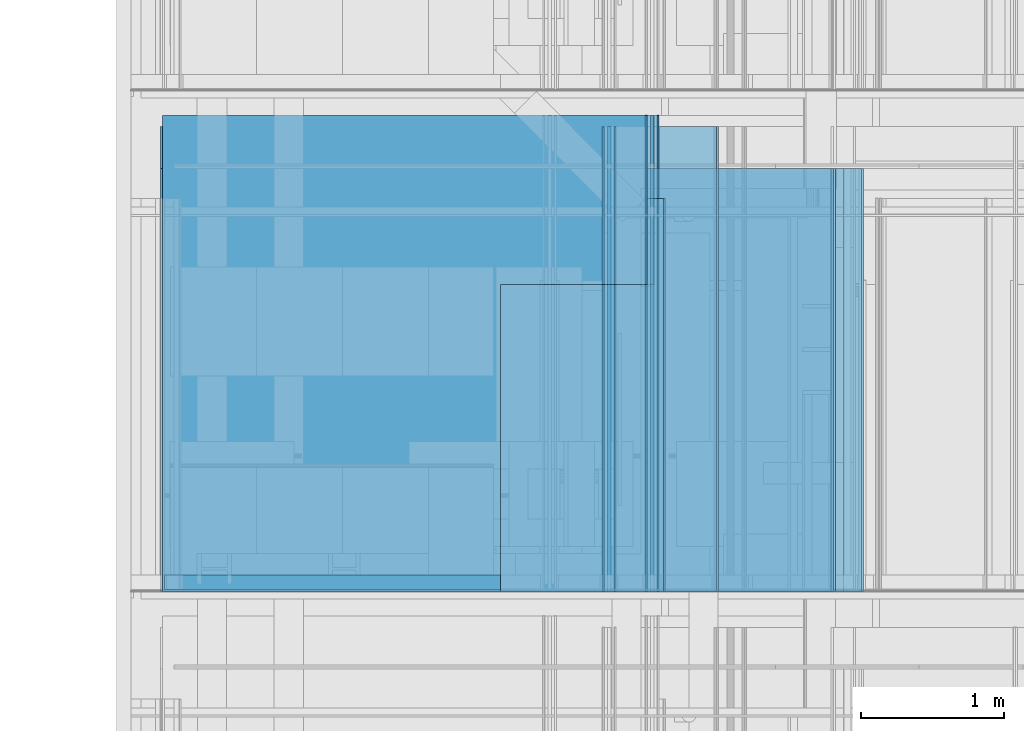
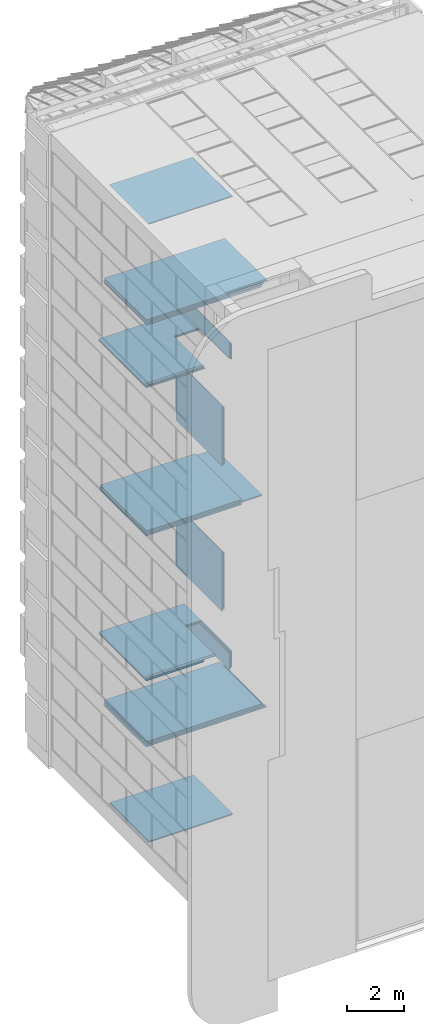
# One storey, part 61 of 583: 41 building element parts, 6 openings, 11 elements without a shape of their own.
"""IFC2X3 building model written with IfcOpenShell, lengths in metres."""

from ifc_helpers import new_model, entity, si_unit, converted_unit, derived_unit, money_unit, direction, frame, frame_2d, origin_with_axes, place, context, subcontext, project, spatial, polyline, rectangle, outline, extrude, material, type_object, element, aggregate, save


model = new_model("IFC2X3")

# Units and contexts
model_context = context("Model", 3, precision=1e-05, world=origin_with_axes(), true_north=direction((0.0, 1.0)))
body_context = subcontext(model_context, "Body", "Model", "MODEL_VIEW", scale=1.0)
ifc_project = project(units=[si_unit("LENGTHUNIT", "METRE"), si_unit("AREAUNIT", "SQUARE_METRE"), si_unit("VOLUMEUNIT", "CUBIC_METRE"), si_unit("ABSORBEDDOSEUNIT", "GRAY"), si_unit("AMOUNTOFSUBSTANCEUNIT", "MOLE"), si_unit("DOSEEQUIVALENTUNIT", "SIEVERT"), si_unit("ELECTRICCAPACITANCEUNIT", "FARAD"), si_unit("ELECTRICCHARGEUNIT", "COULOMB"), si_unit("ELECTRICCONDUCTANCEUNIT", "SIEMENS"), si_unit("ELECTRICCURRENTUNIT", "AMPERE"), si_unit("ELECTRICRESISTANCEUNIT", "OHM"), si_unit("ELECTRICVOLTAGEUNIT", "VOLT"), si_unit("ENERGYUNIT", "JOULE"), si_unit("FORCEUNIT", "NEWTON"), si_unit("FREQUENCYUNIT", "HERTZ"), si_unit("ILLUMINANCEUNIT", "LUX"), si_unit("INDUCTANCEUNIT", "HENRY"), si_unit("LUMINOUSFLUXUNIT", "LUMEN"), si_unit("LUMINOUSINTENSITYUNIT", "CANDELA"), si_unit("MAGNETICFLUXDENSITYUNIT", "TESLA"), si_unit("MAGNETICFLUXUNIT", "WEBER"), si_unit("MASSUNIT", "GRAM"), converted_unit("PLANEANGLEUNIT", "degree", entity("IfcReal", 0.0174532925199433), si_unit("PLANEANGLEUNIT", "RADIAN"), dimensions=[0, 0, 0, 0, 0, 0, 0]), si_unit("POWERUNIT", "WATT"), si_unit("PRESSUREUNIT", "PASCAL"), si_unit("RADIOACTIVITYUNIT", "BECQUEREL"), si_unit("SOLIDANGLEUNIT", "STERADIAN"), si_unit("THERMODYNAMICTEMPERATUREUNIT", "KELVIN"), si_unit("TIMEUNIT", "SECOND"), derived_unit("ACCELERATIONUNIT", [(si_unit("LENGTHUNIT", "METRE"), 1), (si_unit("TIMEUNIT", "SECOND"), -2)]), derived_unit("ANGULARVELOCITYUNIT", [(converted_unit("PLANEANGLEUNIT", "degree", entity("IfcReal", 0.0174532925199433), si_unit("PLANEANGLEUNIT", "RADIAN"), dimensions=[0, 0, 0, 0, 0, 0, 0]), 1), (si_unit("TIMEUNIT", "SECOND"), -1)]), derived_unit("CURVATUREUNIT", [(converted_unit("PLANEANGLEUNIT", "degree", entity("IfcReal", 0.0174532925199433), si_unit("PLANEANGLEUNIT", "RADIAN"), dimensions=[0, 0, 0, 0, 0, 0, 0]), 1), (si_unit("LENGTHUNIT", "METRE"), -1)]), derived_unit("DYNAMICVISCOSITYUNIT", [(si_unit("PRESSUREUNIT", "PASCAL"), 1), (si_unit("TIMEUNIT", "SECOND"), 1)]), derived_unit("HEATFLUXDENSITYUNIT", [(si_unit("POWERUNIT", "WATT"), 1), (si_unit("LENGTHUNIT", "METRE"), -2)]), derived_unit("HEATINGVALUEUNIT", [(si_unit("ENERGYUNIT", "JOULE"), 1), (si_unit("MASSUNIT", "GRAM"), -1)]), derived_unit("INTEGERCOUNTRATEUNIT", [(si_unit("TIMEUNIT", "SECOND"), -1)]), derived_unit("IONCONCENTRATIONUNIT", [(si_unit("MASSUNIT", "GRAM"), 1), (si_unit("VOLUMEUNIT", "CUBIC_METRE"), -1)]), derived_unit("ISOTHERMALMOISTURECAPACITYUNIT", [(si_unit("VOLUMEUNIT", "CUBIC_METRE"), 1), (si_unit("MASSUNIT", "GRAM"), -1)]), derived_unit("KINEMATICVISCOSITYUNIT", [(si_unit("AREAUNIT", "SQUARE_METRE"), 1), (si_unit("TIMEUNIT", "SECOND"), -1)]), derived_unit("LINEARFORCEUNIT", [(si_unit("FORCEUNIT", "NEWTON"), 1), (si_unit("LENGTHUNIT", "METRE"), -1)]), derived_unit("LINEARMOMENTUNIT", [(si_unit("FORCEUNIT", "NEWTON"), 1), (si_unit("LENGTHUNIT", "METRE"), -1)]), derived_unit("LINEARSTIFFNESSUNIT", [(si_unit("FORCEUNIT", "NEWTON"), 1), (si_unit("LENGTHUNIT", "METRE"), -1)]), derived_unit("LINEARVELOCITYUNIT", [(si_unit("LENGTHUNIT", "METRE"), 1), (si_unit("TIMEUNIT", "SECOND"), -1)]), derived_unit("LUMINOUSINTENSITYDISTRIBUTIONUNIT", [(si_unit("LUMINOUSINTENSITYUNIT", "CANDELA"), 1), (si_unit("LUMINOUSFLUXUNIT", "LUMEN"), -1)]), derived_unit("MASSDENSITYUNIT", [(si_unit("MASSUNIT", "GRAM"), 1), (si_unit("VOLUMEUNIT", "CUBIC_METRE"), -1)]), derived_unit("MASSFLOWRATEUNIT", [(si_unit("MASSUNIT", "GRAM"), 1), (si_unit("TIMEUNIT", "SECOND"), -1)]), derived_unit("MASSPERLENGTHUNIT", [(si_unit("MASSUNIT", "GRAM"), 1), (si_unit("LENGTHUNIT", "METRE"), -1)]), derived_unit("MODULUSOFELASTICITYUNIT", [(si_unit("FORCEUNIT", "NEWTON"), 1), (si_unit("AREAUNIT", "SQUARE_METRE"), -1)]), derived_unit("MODULUSOFLINEARSUBGRADEREACTIONUNIT", [(si_unit("FORCEUNIT", "NEWTON"), 1), (si_unit("LENGTHUNIT", "METRE"), -2)]), derived_unit("MODULUSOFROTATIONALSUBGRADEREACTIONUNIT", [(si_unit("FORCEUNIT", "NEWTON"), 1), (si_unit("LENGTHUNIT", "METRE"), 1)]), derived_unit("MODULUSOFSUBGRADEREACTIONUNIT", [(si_unit("FORCEUNIT", "NEWTON"), 1), (si_unit("VOLUMEUNIT", "CUBIC_METRE"), -1)]), derived_unit("MOISTUREDIFFUSIVITYUNIT", [(si_unit("VOLUMEUNIT", "CUBIC_METRE"), 1), (si_unit("TIMEUNIT", "SECOND"), -1)]), derived_unit("MOLECULARWEIGHTUNIT", [(si_unit("MASSUNIT", "GRAM"), 1), (si_unit("AMOUNTOFSUBSTANCEUNIT", "MOLE"), -1)]), derived_unit("PLANARFORCEUNIT", [(si_unit("FORCEUNIT", "NEWTON"), 1), (si_unit("LENGTHUNIT", "METRE"), -2)]), derived_unit("ROTATIONALFREQUENCYUNIT", [(si_unit("TIMEUNIT", "SECOND"), -1)]), derived_unit("ROTATIONALMASSUNIT", [(si_unit("MASSUNIT", "GRAM"), 1), (si_unit("LENGTHUNIT", "METRE"), 2)]), derived_unit("ROTATIONALSTIFFNESSUNIT", [(si_unit("FORCEUNIT", "NEWTON"), 1), (si_unit("LENGTHUNIT", "METRE"), 1), (converted_unit("PLANEANGLEUNIT", "degree", entity("IfcReal", 0.0174532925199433), si_unit("PLANEANGLEUNIT", "RADIAN"), dimensions=[0, 0, 0, 0, 0, 0, 0]), -1)]), derived_unit("SECTIONAREAINTEGRALUNIT", [(si_unit("LENGTHUNIT", "METRE"), 5)]), derived_unit("SECTIONMODULUSUNIT", [(si_unit("LENGTHUNIT", "METRE"), 3)]), derived_unit("SHEARMODULUSUNIT", [(si_unit("FORCEUNIT", "NEWTON"), 1), (si_unit("AREAUNIT", "SQUARE_METRE"), -1)]), derived_unit("SOUNDPOWERUNIT", [(si_unit("ENERGYUNIT", "JOULE"), 1), (si_unit("TIMEUNIT", "SECOND"), -1)]), derived_unit("SPECIFICHEATCAPACITYUNIT", [(si_unit("FORCEUNIT", "NEWTON"), 1), (si_unit("MASSUNIT", "GRAM"), -1), (si_unit("THERMODYNAMICTEMPERATUREUNIT", "KELVIN"), -1)]), derived_unit("TEMPERATUREGRADIENTUNIT", [(si_unit("THERMODYNAMICTEMPERATUREUNIT", "KELVIN"), 1), (si_unit("LENGTHUNIT", "METRE"), -1)]), derived_unit("THERMALADMITTANCEUNIT", [(si_unit("POWERUNIT", "WATT"), 1), (si_unit("AREAUNIT", "SQUARE_METRE"), -1), (si_unit("THERMODYNAMICTEMPERATUREUNIT", "KELVIN"), -1)]), derived_unit("THERMALCONDUCTANCEUNIT", [(si_unit("POWERUNIT", "WATT"), 1), (si_unit("LENGTHUNIT", "METRE"), -1), (si_unit("THERMODYNAMICTEMPERATUREUNIT", "KELVIN"), -1)]), derived_unit("THERMALEXPANSIONCOEFFICIENTUNIT", [(si_unit("THERMODYNAMICTEMPERATUREUNIT", "KELVIN"), -1)]), derived_unit("THERMALRESISTANCEUNIT", [(si_unit("AREAUNIT", "SQUARE_METRE"), 1), (si_unit("POWERUNIT", "WATT"), -1)]), derived_unit("THERMALTRANSMITTANCEUNIT", [(si_unit("POWERUNIT", "WATT"), 1), (si_unit("AREAUNIT", "SQUARE_METRE"), -1), (si_unit("THERMODYNAMICTEMPERATUREUNIT", "KELVIN"), -1)]), derived_unit("TORQUEUNIT", [(si_unit("FORCEUNIT", "NEWTON"), 1), (si_unit("LENGTHUNIT", "METRE"), 1)]), derived_unit("VAPORPERMEABILITYUNIT", [(si_unit("MASSUNIT", "GRAM"), 1), (si_unit("TIMEUNIT", "SECOND"), -1)]), derived_unit("VOLUMETRICFLOWRATEUNIT", [(si_unit("VOLUMEUNIT", "CUBIC_METRE"), 1), (si_unit("TIMEUNIT", "SECOND"), -1)]), derived_unit("WARPINGCONSTANTUNIT", [(si_unit("LENGTHUNIT", "METRE"), 6)]), derived_unit("WARPINGMOMENTUNIT", [(si_unit("FORCEUNIT", "NEWTON"), 1), (si_unit("LENGTHUNIT", "METRE"), 2)]), money_unit("GBP")], contexts=[model_context])

# Site, building, storey
site_placement = place(None, origin_with_axes())
site = spatial("IfcSite", under=ifc_project, at=site_placement, Name="Site", CompositionType="ELEMENT")
building_placement = place(site_placement, origin_with_axes())
building = spatial("IfcBuilding", under=site, at=building_placement, Name="Building01", CompositionType="ELEMENT")
storey_placement = place(building_placement, frame((0.0, 0.0, 20.78), z_axis=(0.0, 0.0, 1.0), x_axis=(1.0, 0.0, 0.0)))
storey = spatial("IfcBuildingStorey", under=building, at=storey_placement, Name="RL", CompositionType="ELEMENT", Elevation=20.78)

# Wall, building element parts
wall_type_1 = type_object("IfcWallType", Name="SHE_A-Walls_Type01c_Partywall_225mm_twin_tall", PredefinedType="NOTDEFINED")
wall_1_placement = place(storey_placement, frame((5.068, 8.64, 1.708), z_axis=(0.0, 1.0, 0.0), x_axis=(-1.0, 0.0, 0.0)))
wall_1 = element("IfcWall", 1, at=wall_1_placement, inside=storey, type_object=wall_type_1, Name="1C", ObjectType="SHE_A-Walls_Type01c_Partywall_225mm_twin_tall")
ifc_material_1 = material(Name="A_BSUK_Insulation")
placement_1 = place(wall_1_placement, origin_with_axes())
building_element_part_1 = element("IfcBuildingElementPart", 2, at=placement_1, material=ifc_material_1, Name="1", context=body_context, shape_type="SweptSolid", body=[
    extrude(rectangle(XDim=4.762, YDim=0.05, at=frame_2d((2.381, 0.025), x_axis=(-1.0, 0.0))), origin_with_axes(), (0.0, 0.0, 1.0), 2.95),
])
ifc_material_2 = material(Name="A_BSUK_WallInternal_Finishes_Plasterboard")
building_element_part_2 = element("IfcBuildingElementPart", 3, at=placement_1, material=ifc_material_2, Name="3", context=body_context, shape_type="SweptSolid", body=[
    extrude(outline(polyline([(-0.137, 0.137), (-0.122, 0.122), (4.735, 0.122), (4.735, 0.137), (-0.137, 0.137)])), origin_with_axes(), (0.0, 0.0, 1.0), 2.95),
])
building_element_part_3 = element("IfcBuildingElementPart", 4, at=placement_1, material=ifc_material_2, Name="4", context=body_context, shape_type="SweptSolid", body=[
    extrude(outline(polyline([(4.75, 0.122), (-0.122, 0.122), (-0.107, 0.107), (4.75, 0.107), (4.75, 0.122)])), origin_with_axes(), (0.0, 0.0, 1.0), 2.95),
])
building_element_part_4 = element("IfcBuildingElementPart", 5, at=placement_1, material=ifc_material_2, Name="5", context=body_context, shape_type="SweptSolid", body=[
    extrude(outline(polyline([(4.75, -0.058), (0.058, -0.058), (0.073, -0.073), (4.75, -0.073), (4.75, -0.058)])), origin_with_axes(), (0.0, 0.0, 1.0), 2.95),
])
building_element_part_5 = element("IfcBuildingElementPart", 6, at=placement_1, material=ifc_material_2, Name="6", context=body_context, shape_type="SweptSolid", body=[
    extrude(outline(polyline([(4.735, -0.073), (0.073, -0.073), (0.088, -0.088), (4.735, -0.088), (4.735, -0.073)])), origin_with_axes(), (0.0, 0.0, 1.0), 2.95),
])
aggregate(wall_1, [building_element_part_1, building_element_part_2, building_element_part_3, building_element_part_4, building_element_part_5])

wall_type_2 = type_object("IfcWallType", Name="SHE_A-Walls_Type06d_ExternalWallInsulation_48mm", PredefinedType="NOTDEFINED")
wall_2_placement = place(storey_placement, frame((0.4, 8.64, 5.93), z_axis=(0.0, 1.0, 0.0), x_axis=(1.0, 0.0, 0.0)))
wall_2 = element("IfcWall", 7, at=wall_2_placement, inside=storey, type_object=wall_type_2, Name="6D", ObjectType="SHE_A-Walls_Type06d_ExternalWallInsulation_48mm")
placement_2 = place(wall_2_placement, origin_with_axes())
building_element_part_6 = element("IfcBuildingElementPart", 8, at=placement_2, material=ifc_material_1, Name="1", context=body_context, shape_type="SweptSolid", body=[
    extrude(outline(polyline([(3.41018, 0.036), (0.036, 0.036), (0.0, 0.0), (3.37418, 0.0), (3.41018, 0.036)])), origin_with_axes(), (0.0, 0.0, 1.0), 2.74),
])
building_element_part_7 = element("IfcBuildingElementPart", 9, at=placement_2, material=ifc_material_2, Name="3", context=body_context, shape_type="SweptSolid", body=[
    extrude(outline(polyline([(3.42218, 0.048), (0.048, 0.048), (0.035, 0.035), (3.40918, 0.035), (3.42218, 0.048)])), origin_with_axes(), (0.0, 0.0, 1.0), 2.74),
])
aggregate(wall_2, [building_element_part_6, building_element_part_7])

wall_3_placement = place(storey_placement, frame((4.995, 8.64, -7.2795), z_axis=(0.0, 1.0, 0.0), x_axis=(-1.0, 0.0, 0.0)))
wall_3 = element("IfcWall", 10, at=wall_3_placement, inside=storey, type_object=wall_type_1, Name="1C", ObjectType="SHE_A-Walls_Type01c_Partywall_225mm_twin_tall")
placement_3 = place(wall_3_placement, origin_with_axes())
building_element_part_8 = element("IfcBuildingElementPart", 11, at=placement_3, material=ifc_material_1, Name="1", context=body_context, shape_type="SweptSolid", body=[
    extrude(rectangle(XDim=4.689, YDim=0.05, at=frame_2d((2.3445, 0.0), x_axis=(-1.0, 0.0))), origin_with_axes(), (0.0, 0.0, 1.0), 3.24),
])
building_element_part_9 = element("IfcBuildingElementPart", 12, at=placement_3, material=ifc_material_2, Name="8", context=body_context, shape_type="SweptSolid", body=[
    extrude(rectangle(XDim=3.846428, YDim=0.015, at=frame_2d((2.738786, -0.1055), x_axis=(-1.0, 0.0))), origin_with_axes(), (0.0, 0.0, 1.0), 3.24),
])
building_element_part_10 = element("IfcBuildingElementPart", 13, at=placement_3, material=ifc_material_2, Name="9", context=body_context, shape_type="SweptSolid", body=[
    extrude(rectangle(XDim=3.876428, YDim=0.015, at=frame_2d((2.738786, -0.0905), x_axis=(-1.0, 0.0))), origin_with_axes(), (0.0, 0.0, 1.0), 3.24),
])
building_element_part_11 = element("IfcBuildingElementPart", 14, at=placement_3, material=ifc_material_2, Name="10", context=body_context, shape_type="SweptSolid", body=[
    extrude(rectangle(XDim=3.876428, YDim=0.015, at=frame_2d((2.738786, 0.0895), x_axis=(-1.0, 0.0))), origin_with_axes(), (0.0, 0.0, 1.0), 3.24),
])
building_element_part_12 = element("IfcBuildingElementPart", 15, at=placement_3, material=ifc_material_2, Name="11", context=body_context, shape_type="SweptSolid", body=[
    extrude(rectangle(XDim=3.846428, YDim=0.015, at=frame_2d((2.738786, 0.1045), x_axis=(-1.0, 0.0))), origin_with_axes(), (0.0, 0.0, 1.0), 3.24),
])
aggregate(wall_3, [building_element_part_8, building_element_part_9, building_element_part_10, building_element_part_11, building_element_part_12])

wall_4_placement = place(storey_placement, frame((3.77418, 8.64, -20.51), z_axis=(0.0, 1.0, 0.0), x_axis=(-1.0, 0.0, 0.0)))
wall_4 = element("IfcWall", 16, at=wall_4_placement, inside=storey, type_object=wall_type_2, Name="6D", ObjectType="SHE_A-Walls_Type06d_ExternalWallInsulation_48mm")
placement_4 = place(wall_4_placement, origin_with_axes())
building_element_part_13 = element("IfcBuildingElementPart", 17, at=placement_4, material=ifc_material_1, Name="1", context=body_context, shape_type="SweptSolid", body=[
    extrude(outline(polyline([(3.33818, 0.036), (-0.036, 0.036), (0.0, 0.0), (3.37418, 0.0), (3.33818, 0.036)])), origin_with_axes(), (0.0, 0.0, 1.0), 2.74),
])
building_element_part_14 = element("IfcBuildingElementPart", 18, at=placement_4, material=ifc_material_2, Name="4", context=body_context, shape_type="SweptSolid", body=[
    extrude(outline(polyline([(3.32618, 0.048), (-0.048, 0.048), (-0.035, 0.035), (3.33918, 0.035), (3.32618, 0.048)])), origin_with_axes(), (0.0, 0.0, 1.0), 2.74),
])
aggregate(wall_4, [building_element_part_13, building_element_part_14])

wall_5_placement = place(storey_placement, frame((0.318, 8.64, -16.258), z_axis=(0.0, 1.0, 0.0), x_axis=(1.0, 0.0, 0.0)))
wall_5 = element("IfcWall", 19, at=wall_5_placement, inside=storey, type_object=wall_type_1, Name="1C", ObjectType="SHE_A-Walls_Type01c_Partywall_225mm_twin_tall")
placement_5 = place(wall_5_placement, origin_with_axes())
building_element_part_15 = element("IfcBuildingElementPart", 20, at=placement_5, material=ifc_material_1, Name="1", context=body_context, shape_type="SweptSolid", body=[
    extrude(rectangle(XDim=4.749, YDim=0.05, at=frame_2d((2.3745, 0.025), x_axis=(-1.0, 0.0))), origin_with_axes(), (0.0, 0.0, 1.0), 2.95),
])
building_element_part_16 = element("IfcBuildingElementPart", 21, at=placement_5, material=ifc_material_2, Name="3", context=body_context, shape_type="SweptSolid", body=[
    extrude(outline(polyline([(-0.012, 0.137), (-0.012, 0.122), (4.872, 0.122), (4.887, 0.137), (-0.012, 0.137)])), origin_with_axes(), (0.0, 0.0, 1.0), 2.95),
])
building_element_part_17 = element("IfcBuildingElementPart", 22, at=placement_5, material=ifc_material_2, Name="4", context=body_context, shape_type="SweptSolid", body=[
    extrude(outline(polyline([(-0.012, 0.122), (-0.012, 0.107), (4.857, 0.107), (4.872, 0.122), (-0.012, 0.122)])), origin_with_axes(), (0.0, 0.0, 1.0), 2.95),
])
building_element_part_18 = element("IfcBuildingElementPart", 23, at=placement_5, material=ifc_material_2, Name="5", context=body_context, shape_type="SweptSolid", body=[
    extrude(outline(polyline([(4.692, -0.058), (0.0, -0.058), (0.0, -0.073), (4.677, -0.073), (4.692, -0.058)])), origin_with_axes(), (0.0, 0.0, 1.0), 2.95),
])
building_element_part_19 = element("IfcBuildingElementPart", 24, at=placement_5, material=ifc_material_2, Name="6", context=body_context, shape_type="SweptSolid", body=[
    extrude(outline(polyline([(4.677, -0.073), (0.0, -0.073), (0.015, -0.088), (4.662, -0.088), (4.677, -0.073)])), origin_with_axes(), (0.0, 0.0, 1.0), 2.95),
])
aggregate(wall_5, [building_element_part_15, building_element_part_16, building_element_part_17, building_element_part_18, building_element_part_19])

wall_type_3 = type_object("IfcWallType", Name="SHE_A-Walls_Type05a_Partition_95mm_tall", PredefinedType="NOTDEFINED")
wall_6_placement = place(storey_placement, frame((3.72, 8.64, -13.545), z_axis=(0.0, 1.0, 0.0), x_axis=(0.0, 0.0, -1.0)))
wall_6 = element("IfcWall", 25, at=wall_6_placement, inside=storey, type_object=wall_type_3, Name="5A", ObjectType="SHE_A-Walls_Type05a_Partition_95mm_tall")
placement_6 = place(wall_6_placement, origin_with_axes())
building_element_part_20 = element("IfcBuildingElementPart", 26, at=placement_6, material=ifc_material_1, Name="1", context=body_context, shape_type="SweptSolid", body=[
    extrude(outline(polyline([(0.7, 0.0), (0.0, 0.0), (0.0, -0.025), (0.675, -0.025), (0.7, 0.0)])), origin_with_axes(), (0.0, 0.0, 1.0), 3.32),
])
building_element_part_21 = element("IfcBuildingElementPart", 27, at=placement_6, material=ifc_material_2, Name="4", context=body_context, shape_type="SweptSolid", body=[
    extrude(outline(polyline([(0.735, 0.035), (0.035, 0.035), (0.023, 0.023), (0.723, 0.023), (0.735, 0.035)])), origin_with_axes(), (0.0, 0.0, 1.0), 3.32),
])
building_element_part_22 = element("IfcBuildingElementPart", 28, at=placement_6, material=ifc_material_2, Name="5", context=body_context, shape_type="SweptSolid", body=[
    extrude(outline(polyline([(0.652, -0.048), (-0.048, -0.048), (-0.06, -0.06), (0.64, -0.06), (0.652, -0.048)])), origin_with_axes(), (0.0, 0.0, 1.0), 3.32),
])
aggregate(wall_6, [building_element_part_20, building_element_part_21, building_element_part_22])

# Wall, openings, building element parts
wall_7_placement = place(storey_placement, frame((3.745, 8.64, -13.52), z_axis=(0.0, 1.0, 0.0), x_axis=(-1.0, 0.0, 0.0)))
wall_7 = element("IfcWall", 29, at=wall_7_placement, inside=storey, type_object=wall_type_3, Name="5A", ObjectType="SHE_A-Walls_Type05a_Partition_95mm_tall")
opening_1_placement = place(wall_7_placement, frame((-0.490781, 0.035, -0.015), z_axis=(0.0, 0.0, 1.0), x_axis=(1.0, 0.0, 0.0)))
element("IfcOpeningElement", 30, at=opening_1_placement, cuts=wall_7, Name="Opening", ObjectType="Opening", context=body_context, shape_type="SweptSolid", body=[
    extrude(rectangle(XDim=2.142, YDim=1.084, at=frame_2d((0.542, 1.071), x_axis=(0.0, -1.0))), frame((0.0, 0.09, 0.0), z_axis=(0.0, -1.0, 0.0), x_axis=(1.0, 0.0, 0.0)), (0.0, 0.0, 1.0), 0.18),
])
opening_2_placement = place(wall_7_placement, frame((-0.490781, -0.079, 0.0), z_axis=(0.0, 0.0, 1.0), x_axis=(1.0, 0.0, 0.0)))
element("IfcOpeningElement", 31, at=opening_2_placement, cuts=wall_7, Name="Opening", ObjectType="Opening", context=body_context, shape_type="SweptSolid", body=[
    extrude(rectangle(XDim=2.142, YDim=1.084, at=frame_2d((0.542, 1.071), x_axis=(0.0, -1.0))), frame((0.0, 0.1185, 0.0), z_axis=(0.0, -1.0, 0.0), x_axis=(1.0, 0.0, 0.0)), (0.0, 0.0, 1.0), 0.237),
])
opening_3_placement = place(wall_7_placement, frame((0.087, -0.06, 0.0), z_axis=(0.0, 0.0, 1.0), x_axis=(1.0, 0.0, 0.0)))
element("IfcOpeningElement", 32, at=opening_3_placement, cuts=wall_7, Name="Opening", ObjectType="Opening", context=body_context, shape_type="SweptSolid", body=[
    extrude(rectangle(XDim=2.142, YDim=0.984, at=frame_2d((0.492, 1.071), x_axis=(0.0, -1.0))), frame((0.0, 0.09, 0.0), z_axis=(0.0, -1.0, 0.0), x_axis=(1.0, 0.0, 0.0)), (0.0, 0.0, 1.0), 0.18),
])
placement_7 = place(wall_7_placement, origin_with_axes())
building_element_part_23 = element("IfcBuildingElementPart", 33, at=placement_7, material=ifc_material_1, Name="1", context=body_context, shape_type="SweptSolid", body=[
    extrude(rectangle(XDim=3.427, YDim=0.025, at=frame_2d((1.7135, -0.0125), x_axis=(-1.0, 0.0))), origin_with_axes(), (0.0, 0.0, 1.0), 3.32),
])
ifc_material_3 = material(Name="A_BSUK_Walls_Timber")
building_element_part_24 = element("IfcBuildingElementPart", 34, at=placement_7, material=ifc_material_3, Name="2", context=body_context, shape_type="SweptSolid", body=[
    extrude(outline(polyline([(3.412, -0.06), (0.06, -0.06), (0.075, -0.075), (3.412, -0.075), (3.412, -0.06)])), frame((0.0, 0.0, 0.015), z_axis=(0.0, 0.0, 1.0), x_axis=(1.0, 0.0, 0.0)), (0.0, 0.0, 1.0), 0.1),
])
building_element_part_25 = element("IfcBuildingElementPart", 35, at=placement_7, material=ifc_material_3, Name="3", context=body_context, shape_type="SweptSolid", body=[
    extrude(outline(polyline([(3.412, 0.05), (-0.05, 0.05), (-0.035, 0.035), (3.412, 0.035), (3.412, 0.05)])), frame((0.0, 0.0, 0.015), z_axis=(0.0, 0.0, 1.0), x_axis=(1.0, 0.0, 0.0)), (0.0, 0.0, 1.0), 0.1),
])
building_element_part_26 = element("IfcBuildingElementPart", 36, at=placement_7, material=ifc_material_2, Name="4", context=body_context, shape_type="SweptSolid", body=[
    extrude(outline(polyline([(3.427, -0.048), (0.048, -0.048), (0.06, -0.06), (3.427, -0.06), (3.427, -0.048)])), origin_with_axes(), (0.0, 0.0, 1.0), 3.32),
])
building_element_part_27 = element("IfcBuildingElementPart", 37, at=placement_7, material=ifc_material_2, Name="5", context=body_context, shape_type="SweptSolid", body=[
    extrude(outline(polyline([(3.427, 0.035), (-0.035, 0.035), (-0.023, 0.023), (3.427, 0.023), (3.427, 0.035)])), origin_with_axes(), (0.0, 0.0, 1.0), 3.32),
])
aggregate(wall_7, [building_element_part_23, building_element_part_24, building_element_part_25, building_element_part_26, building_element_part_27])

wall_8_placement = place(storey_placement, frame((3.745, 8.64, -1.03), z_axis=(0.0, 1.0, 0.0), x_axis=(-1.0, 0.0, 0.0)))
wall_8 = element("IfcWall", 38, at=wall_8_placement, inside=storey, type_object=wall_type_3, Name="5A", ObjectType="SHE_A-Walls_Type05a_Partition_95mm_tall")
opening_4_placement = place(wall_8_placement, frame((-0.490781, -0.035, -0.015), z_axis=(0.0, 0.0, 1.0), x_axis=(1.0, 0.0, 0.0)))
element("IfcOpeningElement", 39, at=opening_4_placement, cuts=wall_8, Name="Opening", ObjectType="Opening", context=body_context, shape_type="SweptSolid", body=[
    extrude(rectangle(XDim=2.142, YDim=1.084, at=frame_2d((-0.542, 1.071), x_axis=(0.0, -1.0))), frame((0.0, -0.09, 0.0), z_axis=(0.0, 1.0, 0.0), x_axis=(-1.0, 0.0, 0.0)), (0.0, 0.0, 1.0), 0.18),
])
opening_5_placement = place(wall_8_placement, frame((0.129, 0.079, 0.0), z_axis=(0.0, 0.0, 1.0), x_axis=(1.0, 0.0, 0.0)))
element("IfcOpeningElement", 40, at=opening_5_placement, cuts=wall_8, Name="Opening", ObjectType="Opening", context=body_context, shape_type="SweptSolid", body=[
    extrude(rectangle(XDim=2.142, YDim=0.9, at=frame_2d((-0.45, 1.071), x_axis=(0.0, -1.0))), frame((0.0, -0.1185, 0.0), z_axis=(0.0, 1.0, 0.0), x_axis=(-1.0, 0.0, 0.0)), (0.0, 0.0, 1.0), 0.237),
])
opening_6_placement = place(wall_8_placement, frame((0.087, 0.06, 0.0), z_axis=(0.0, 0.0, 1.0), x_axis=(1.0, 0.0, 0.0)))
element("IfcOpeningElement", 41, at=opening_6_placement, cuts=wall_8, Name="Opening", ObjectType="Opening", context=body_context, shape_type="SweptSolid", body=[
    extrude(rectangle(XDim=2.142, YDim=0.984, at=frame_2d((-0.492, 1.071), x_axis=(0.0, -1.0))), frame((0.0, -0.09, 0.0), z_axis=(0.0, 1.0, 0.0), x_axis=(-1.0, 0.0, 0.0)), (0.0, 0.0, 1.0), 0.18),
])
placement_8 = place(wall_8_placement, origin_with_axes())
building_element_part_28 = element("IfcBuildingElementPart", 42, at=placement_8, material=ifc_material_1, Name="1", context=body_context, shape_type="SweptSolid", body=[
    extrude(rectangle(XDim=3.427, YDim=0.025, at=frame_2d((1.7135, 0.0125), x_axis=(-1.0, 0.0))), origin_with_axes(), (0.0, 0.0, 1.0), 3.32),
])
building_element_part_29 = element("IfcBuildingElementPart", 43, at=placement_8, material=ifc_material_3, Name="2", context=body_context, shape_type="SweptSolid", body=[
    extrude(rectangle(XDim=2.344, YDim=0.015, at=frame_2d((2.24, 0.0675), x_axis=(-1.0, 0.0))), frame((0.0, 0.0, 0.015), z_axis=(0.0, 0.0, 1.0), x_axis=(1.0, 0.0, 0.0)), (0.0, 0.0, 1.0), 0.1),
])
building_element_part_30 = element("IfcBuildingElementPart", 44, at=placement_8, material=ifc_material_3, Name="3", context=body_context, shape_type="SweptSolid", body=[
    extrude(rectangle(XDim=2.344, YDim=0.015, at=frame_2d((2.24, -0.0425), x_axis=(-1.0, 0.0))), frame((0.0, 0.0, 0.015), z_axis=(0.0, 0.0, 1.0), x_axis=(1.0, 0.0, 0.0)), (0.0, 0.0, 1.0), 0.1),
])
building_element_part_31 = element("IfcBuildingElementPart", 45, at=placement_8, material=ifc_material_2, Name="4", context=body_context, shape_type="SweptSolid", body=[
    extrude(outline(polyline([(3.427, 0.06), (0.06, 0.06), (0.048, 0.048), (3.427, 0.048), (3.427, 0.06)])), origin_with_axes(), (0.0, 0.0, 1.0), 3.32),
])
building_element_part_32 = element("IfcBuildingElementPart", 46, at=placement_8, material=ifc_material_2, Name="5", context=body_context, shape_type="SweptSolid", body=[
    extrude(outline(polyline([(3.427, -0.023), (-0.023, -0.023), (-0.035, -0.035), (3.427, -0.035), (3.427, -0.023)])), origin_with_axes(), (0.0, 0.0, 1.0), 3.32),
])
aggregate(wall_8, [building_element_part_28, building_element_part_29, building_element_part_30, building_element_part_31, building_element_part_32])

# Wall, building element parts
wall_9_placement = place(storey_placement, frame((3.72, 8.64, -1.005), z_axis=(0.0, 1.0, 0.0), x_axis=(0.0, 0.0, 1.0)))
wall_9 = element("IfcWall", 47, at=wall_9_placement, inside=storey, type_object=wall_type_3, Name="5A", ObjectType="SHE_A-Walls_Type05a_Partition_95mm_tall")
placement_9 = place(wall_9_placement, origin_with_axes())
building_element_part_33 = element("IfcBuildingElementPart", 48, at=placement_9, material=ifc_material_1, Name="1", context=body_context, shape_type="SweptSolid", body=[
    extrude(outline(polyline([(0.675, 0.025), (0.0, 0.025), (0.0, 0.0), (0.7, 0.0), (0.675, 0.025)])), origin_with_axes(), (0.0, 0.0, 1.0), 3.32),
])
building_element_part_34 = element("IfcBuildingElementPart", 49, at=placement_9, material=ifc_material_2, Name="4", context=body_context, shape_type="SweptSolid", body=[
    extrude(outline(polyline([(0.723, -0.023), (0.023, -0.023), (0.035, -0.035), (0.735, -0.035), (0.723, -0.023)])), origin_with_axes(), (0.0, 0.0, 1.0), 3.32),
])
building_element_part_35 = element("IfcBuildingElementPart", 50, at=placement_9, material=ifc_material_2, Name="5", context=body_context, shape_type="SweptSolid", body=[
    extrude(outline(polyline([(0.64, 0.06), (-0.06, 0.06), (-0.048, 0.048), (0.652, 0.048), (0.64, 0.06)])), origin_with_axes(), (0.0, 0.0, 1.0), 3.32),
])
aggregate(wall_9, [building_element_part_33, building_element_part_34, building_element_part_35])

wall_10_placement = place(storey_placement, frame((3.42, 8.64, -2.9125), z_axis=(0.0, 1.0, 0.0), x_axis=(0.0, 0.0, -1.0)))
wall_10 = element("IfcWall", 51, at=wall_10_placement, inside=storey, type_object=wall_type_3, Name="5A", ObjectType="SHE_A-Walls_Type05a_Partition_95mm_tall")
placement_10 = place(wall_10_placement, origin_with_axes())
building_element_part_36 = element("IfcBuildingElementPart", 52, at=placement_10, material=ifc_material_1, Name="1", context=body_context, shape_type="SweptSolid", body=[
    extrude(outline(polyline([(2.52, 0.0), (0.0, 0.0), (0.025, -0.025), (2.495, -0.025), (2.52, 0.0)])), origin_with_axes(), (0.0, 0.0, 1.0), 3.24),
])
building_element_part_37 = element("IfcBuildingElementPart", 53, at=placement_10, material=ifc_material_2, Name="4", context=body_context, shape_type="SweptSolid", body=[
    extrude(outline(polyline([(2.555, 0.035), (-0.035, 0.035), (-0.023, 0.023), (2.543, 0.023), (2.555, 0.035)])), origin_with_axes(), (0.0, 0.0, 1.0), 3.24),
])
building_element_part_38 = element("IfcBuildingElementPart", 54, at=placement_10, material=ifc_material_2, Name="5", context=body_context, shape_type="SweptSolid", body=[
    extrude(outline(polyline([(2.472, -0.048), (0.048, -0.048), (0.06, -0.06), (2.46, -0.06), (2.472, -0.048)])), origin_with_axes(), (0.0, 0.0, 1.0), 3.24),
])
aggregate(wall_10, [building_element_part_36, building_element_part_37, building_element_part_38])

wall_11_placement = place(storey_placement, frame((3.42, 8.64, -11.647464), z_axis=(0.0, 1.0, 0.0), x_axis=(0.0, 0.0, -1.0)))
wall_11 = element("IfcWall", 55, at=wall_11_placement, inside=storey, type_object=wall_type_3, Name="5A", ObjectType="SHE_A-Walls_Type05a_Partition_95mm_tall")
placement_11 = place(wall_11_placement, origin_with_axes())
building_element_part_39 = element("IfcBuildingElementPart", 56, at=placement_11, material=ifc_material_1, Name="1", context=body_context, shape_type="SweptSolid", body=[
    extrude(outline(polyline([(-2.495, -0.025), (-0.025, -0.025), (0.0, 0.0), (-2.52, 0.0), (-2.495, -0.025)])), origin_with_axes(), (0.0, 0.0, 1.0), 3.24),
])
building_element_part_40 = element("IfcBuildingElementPart", 57, at=placement_11, material=ifc_material_2, Name="4", context=body_context, shape_type="SweptSolid", body=[
    extrude(outline(polyline([(-2.543, 0.023), (0.023, 0.023), (0.035, 0.035), (-2.555, 0.035), (-2.543, 0.023)])), origin_with_axes(), (0.0, 0.0, 1.0), 3.24),
])
building_element_part_41 = element("IfcBuildingElementPart", 58, at=placement_11, material=ifc_material_2, Name="5", context=body_context, shape_type="SweptSolid", body=[
    extrude(outline(polyline([(-2.46, -0.06), (-0.06, -0.06), (-0.048, -0.048), (-2.472, -0.048), (-2.46, -0.06)])), origin_with_axes(), (0.0, 0.0, 1.0), 3.24),
])
aggregate(wall_11, [building_element_part_39, building_element_part_40, building_element_part_41])

save(model, "model.ifc")
